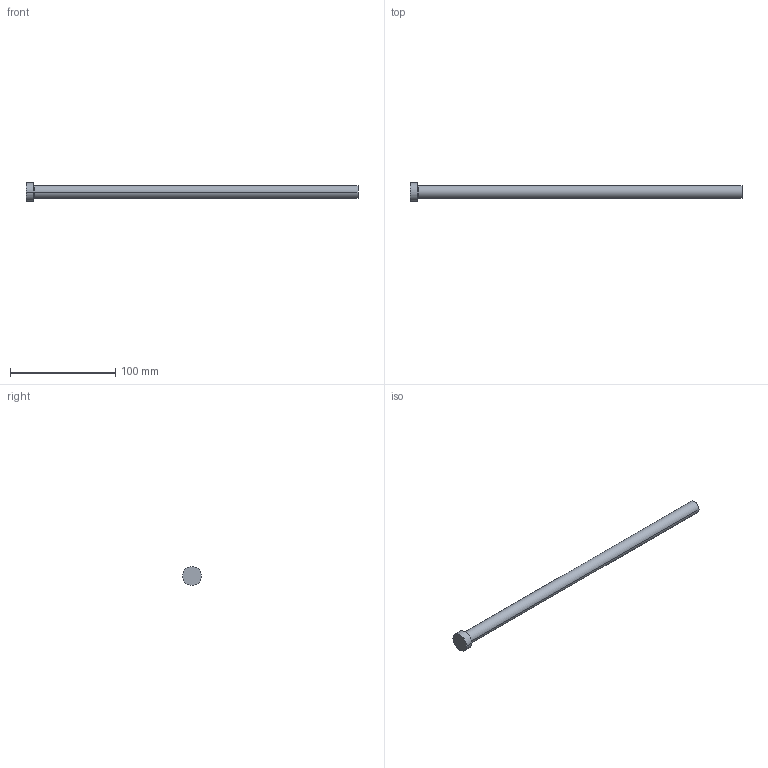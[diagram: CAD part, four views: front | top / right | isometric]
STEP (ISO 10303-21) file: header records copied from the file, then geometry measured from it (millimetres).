
FILE_DESCRIPTION (( 'STEP AP214' ), '1' );
FILE_NAME ('A-12,2x315.STEP', '2020-05-29T16:08:11', ( 'August' ), ( '' ), 'SwSTEP 2.0', 'SolidWorks 2018', '' );
FILE_SCHEMA (( 'AUTOMOTIVE_DESIGN' ));
Length unit declared in the file: millimetre
Products named in the file (1): A-12,2x315
Bounding box: 315 x 18 x 18 mm (x, y, z)
Volume: 37791.5 mm3; surface area: 12696.8 mm2
Topology: 1 solids, 1 shells, 9 faces, 16 edges, 10 vertices
Faces by surface type: cylinder 4, plane 3, torus 2
Entity records: 260 total; most frequent: DIRECTION 48, CARTESIAN_POINT 36, ORIENTED_EDGE 32, AXIS2_PLACEMENT_3D 22, EDGE_CURVE 16, CIRCLE 12, VERTEX_POINT 10, EDGE_LOOP 10
